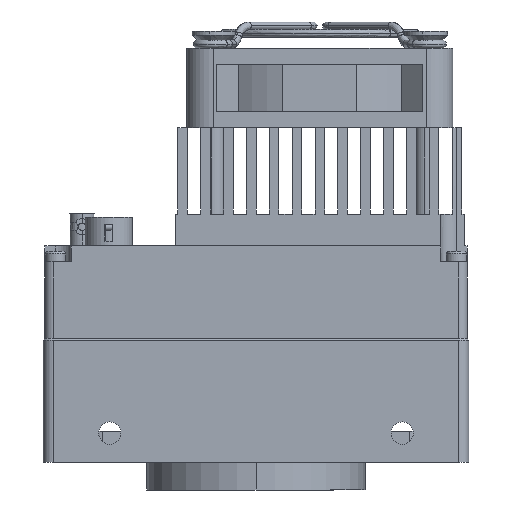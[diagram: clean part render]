
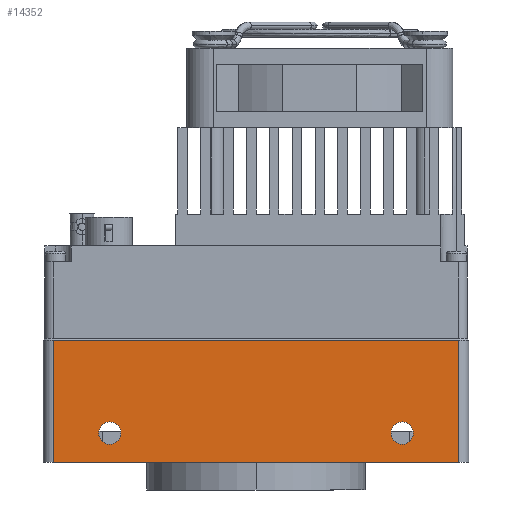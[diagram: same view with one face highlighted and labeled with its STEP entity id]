
A CAD part, front view. The second image highlights one B-rep face of the part: STEP entity #14352.
In plain terms, the highlighted planar face has unit normal (0, -1, 0).
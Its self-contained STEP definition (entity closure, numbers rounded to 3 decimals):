
#346 = CARTESIAN_POINT ( 'NONE',  ( -27.996, -36.924, -32.829 ) ) ;
#1036 = CARTESIAN_POINT ( 'NONE',  ( -29.996, -36.924, -9.839 ) ) ;
#1292 = FACE_BOUND ( 'NONE', #25752, .T. ) ;
#1829 = EDGE_CURVE ( 'NONE', #14548, #12368, #45504, .T. ) ;
#1898 = DIRECTION ( 'NONE',  ( 0., 0., 1. ) ) ;
#4251 = LINE ( 'NONE', #25411, #16031 ) ;
#4784 = VERTEX_POINT ( 'NONE', #44137 ) ;
#5222 = DIRECTION ( 'NONE',  ( -1., 0., 0. ) ) ;
#6770 = VERTEX_POINT ( 'NONE', #51028 ) ;
#7262 = CIRCLE ( 'NONE', #42820, 2.1 ) ;
#7885 = CIRCLE ( 'NONE', #10911, 2.1 ) ;
#7914 = CARTESIAN_POINT ( 'NONE',  ( -105.996, -36.924, -9.839 ) ) ;
#8735 = DIRECTION ( 'NONE',  ( 0., -1., 0. ) ) ;
#10911 = AXIS2_PLACEMENT_3D ( 'NONE', #28925, #8735, #32232 ) ;
#11592 = CARTESIAN_POINT ( 'NONE',  ( -27.996, -36.924, -32.329 ) ) ;
#12275 = VERTEX_POINT ( 'NONE', #18637 ) ;
#12368 = VERTEX_POINT ( 'NONE', #7914 ) ;
#12681 = CIRCLE ( 'NONE', #42348, 2.1 ) ;
#12900 = DIRECTION ( 'NONE',  ( 0., -1., 0. ) ) ;
#13195 = ORIENTED_EDGE ( 'NONE', *, *, #25454, .F. ) ;
#13399 = ORIENTED_EDGE ( 'NONE', *, *, #35714, .F. ) ;
#14352 = ADVANCED_FACE ( 'NONE', ( #27296, #1292, #16801 ), #20047, .F. ) ;
#14365 = DIRECTION ( 'NONE',  ( 0., -1., 0. ) ) ;
#14548 = VERTEX_POINT ( 'NONE', #1036 ) ;
#16031 = VECTOR ( 'NONE', #1898, 1000. ) ;
#16044 = DIRECTION ( 'NONE',  ( 0., 0., -1. ) ) ;
#16801 = FACE_OUTER_BOUND ( 'NONE', #47496, .T. ) ;
#17692 = AXIS2_PLACEMENT_3D ( 'NONE', #11592, #31959, #47854 ) ;
#18189 = EDGE_CURVE ( 'NONE', #12368, #38031, #48014, .T. ) ;
#18637 = CARTESIAN_POINT ( 'NONE',  ( -29.996, -36.924, -32.829 ) ) ;
#20047 = PLANE ( 'NONE',  #17692 ) ;
#20187 = VECTOR ( 'NONE', #5222, 1000. ) ;
#20978 = CARTESIAN_POINT ( 'NONE',  ( -27.996, -36.924, -9.839 ) ) ;
#21253 = DIRECTION ( 'NONE',  ( 0., 0., -1. ) ) ;
#24320 = VERTEX_POINT ( 'NONE', #49012 ) ;
#24651 = CARTESIAN_POINT ( 'NONE',  ( -40.496, -36.924, -29.429 ) ) ;
#25111 = CARTESIAN_POINT ( 'NONE',  ( -105.996, -36.924, -32.829 ) ) ;
#25411 = CARTESIAN_POINT ( 'NONE',  ( -29.996, -36.924, -32.329 ) ) ;
#25454 = EDGE_CURVE ( 'NONE', #6770, #25481, #7262, .T. ) ;
#25466 = ORIENTED_EDGE ( 'NONE', *, *, #18189, .T. ) ;
#25481 = VERTEX_POINT ( 'NONE', #24651 ) ;
#25752 = EDGE_LOOP ( 'NONE', ( #13399, #13195 ) ) ;
#26060 = LINE ( 'NONE', #346, #45829 ) ;
#26916 = ORIENTED_EDGE ( 'NONE', *, *, #1829, .T. ) ;
#27084 = DIRECTION ( 'NONE',  ( 0., 0., -1. ) ) ;
#27296 = FACE_BOUND ( 'NONE', #42425, .T. ) ;
#27819 = AXIS2_PLACEMENT_3D ( 'NONE', #42175, #14365, #30092 ) ;
#28925 = CARTESIAN_POINT ( 'NONE',  ( -40.496, -36.924, -27.329 ) ) ;
#29174 = DIRECTION ( 'NONE',  ( 0., -1., 0. ) ) ;
#30092 = DIRECTION ( 'NONE',  ( 0., 0., -1. ) ) ;
#31959 = DIRECTION ( 'NONE',  ( 0., 1., 0. ) ) ;
#32232 = DIRECTION ( 'NONE',  ( 0., 0., -1. ) ) ;
#33301 = EDGE_CURVE ( 'NONE', #12275, #14548, #4251, .T. ) ;
#33375 = ORIENTED_EDGE ( 'NONE', *, *, #33301, .T. ) ;
#35714 = EDGE_CURVE ( 'NONE', #25481, #6770, #7885, .T. ) ;
#37232 = EDGE_CURVE ( 'NONE', #4784, #24320, #12681, .T. ) ;
#38031 = VERTEX_POINT ( 'NONE', #25111 ) ;
#38167 = CIRCLE ( 'NONE', #27819, 2.1 ) ;
#38180 = EDGE_CURVE ( 'NONE', #24320, #4784, #38167, .T. ) ;
#40205 = CARTESIAN_POINT ( 'NONE',  ( -40.496, -36.924, -27.329 ) ) ;
#40585 = VECTOR ( 'NONE', #27084, 1000. ) ;
#40943 = CARTESIAN_POINT ( 'NONE',  ( -95.496, -36.924, -27.329 ) ) ;
#42175 = CARTESIAN_POINT ( 'NONE',  ( -95.496, -36.924, -27.329 ) ) ;
#42348 = AXIS2_PLACEMENT_3D ( 'NONE', #40943, #29174, #21253 ) ;
#42425 = EDGE_LOOP ( 'NONE', ( #47901, #48819 ) ) ;
#42797 = CARTESIAN_POINT ( 'NONE',  ( -105.996, -36.924, -32.329 ) ) ;
#42820 = AXIS2_PLACEMENT_3D ( 'NONE', #40205, #12900, #16044 ) ;
#44137 = CARTESIAN_POINT ( 'NONE',  ( -95.496, -36.924, -29.429 ) ) ;
#45504 = LINE ( 'NONE', #20978, #20187 ) ;
#45829 = VECTOR ( 'NONE', #46642, 1000. ) ;
#46642 = DIRECTION ( 'NONE',  ( -1., 0., 0. ) ) ;
#47496 = EDGE_LOOP ( 'NONE', ( #33375, #26916, #25466, #48367 ) ) ;
#47854 = DIRECTION ( 'NONE',  ( 1., 0., 0. ) ) ;
#47901 = ORIENTED_EDGE ( 'NONE', *, *, #37232, .F. ) ;
#48014 = LINE ( 'NONE', #42797, #40585 ) ;
#48367 = ORIENTED_EDGE ( 'NONE', *, *, #49599, .F. ) ;
#48819 = ORIENTED_EDGE ( 'NONE', *, *, #38180, .F. ) ;
#49012 = CARTESIAN_POINT ( 'NONE',  ( -95.496, -36.924, -25.229 ) ) ;
#49599 = EDGE_CURVE ( 'NONE', #12275, #38031, #26060, .T. ) ;
#51028 = CARTESIAN_POINT ( 'NONE',  ( -40.496, -36.924, -25.229 ) ) ;
